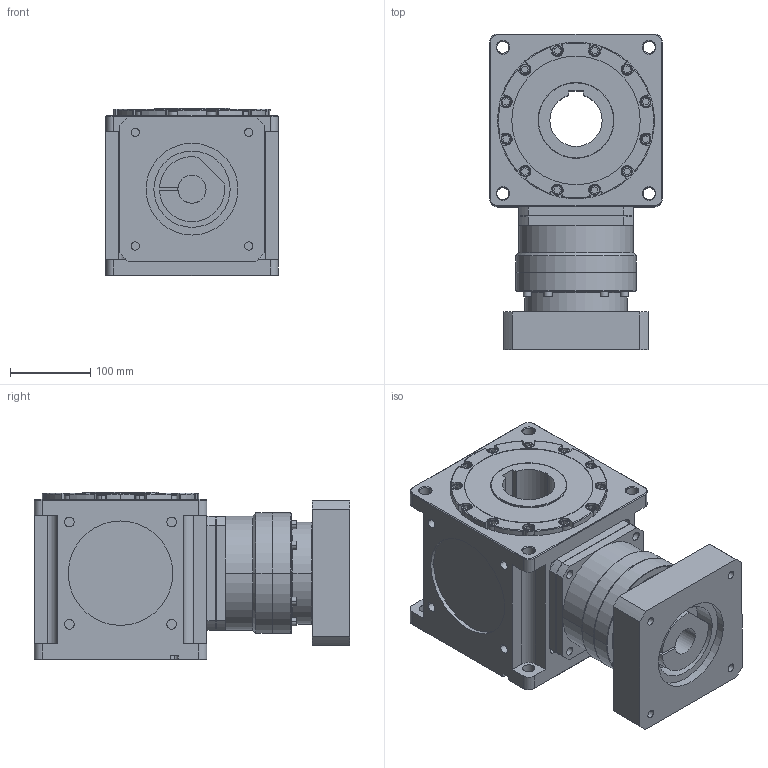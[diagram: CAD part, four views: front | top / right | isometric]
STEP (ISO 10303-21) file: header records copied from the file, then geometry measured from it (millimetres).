
FILE_DESCRIPTION (( 'STEP AP214' ), '1' );
FILE_NAME ('CCW215A-L1(6-20)-CR 35-114.3-200-M12.STEP', '2025-05-28T06:38:06', ( '微软用户' ), ( '微软中国' ), 'SwSTEP 2.0', 'SolidWorks 2024', '' );
FILE_SCHEMA (( 'AUTOMOTIVE_DESIGN' ));
Length unit declared in the file: millimetre
Products named in the file (4): CCW215A行星垫板; VRB-142-L1-S2-P1 35-114.3-200-M12; CCW215A-L1(6-20)-CR 35-114.3-200-M12; CCW215A-002-CR箱体
Assembly tree (3 placements, depth 2):
  CCW215A-L1(6-20)-CR 35-114.3-200-M12
    VRB-142-L1-S2-P1 35-114.3-200-M12
    CCW215A-002-CR箱体
    CCW215A行星垫板
Bounding box: 215 x 393 x 209 mm (x, y, z)
Volume: 11237597.3 mm3; surface area: 588623.5 mm2
Topology: 3 solids, 3 shells, 749 faces, 1821 edges, 1147 vertices
Faces by surface type: plane 324, cylinder 284, torus 65, cone 52, bspline 24
Entity records: 23062 total; most frequent: CARTESIAN_POINT 4864, DIRECTION 3993, ORIENTED_EDGE 3638, EDGE_CURVE 1819, AXIS2_PLACEMENT_3D 1510, VERTEX_POINT 1147, VECTOR 973, LINE 973
